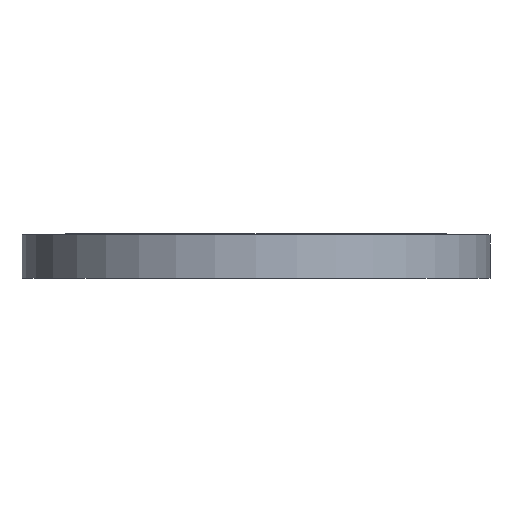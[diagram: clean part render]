
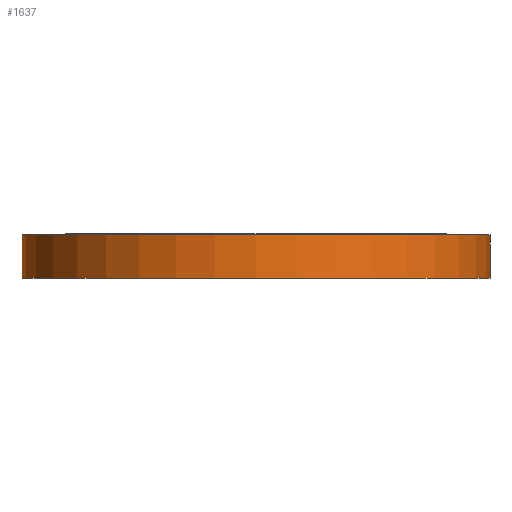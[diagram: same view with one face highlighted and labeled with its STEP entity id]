
A CAD part, front view. The second image highlights one B-rep face of the part: STEP entity #1637.
In plain terms, the highlighted cylindrical face has radius 377.5 mm (diameter 755 mm), a partial arc.
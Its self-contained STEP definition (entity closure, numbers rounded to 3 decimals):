
#1 = CARTESIAN_POINT ( 'NONE',  ( 377.5, 0., -150. ) ) ;
#48 = CARTESIAN_POINT ( 'NONE',  ( -377.5, 0., -2. ) ) ;
#109 = EDGE_CURVE ( 'NONE', #360, #556, #280, .T. ) ;
#146 = CARTESIAN_POINT ( 'NONE',  ( -377.5, 0., -72. ) ) ;
#232 = VECTOR ( 'NONE', #277, 1000. ) ;
#256 = DIRECTION ( 'NONE',  ( 0., 0., -1. ) ) ;
#277 = DIRECTION ( 'NONE',  ( 0., 0., 1. ) ) ;
#278 = CARTESIAN_POINT ( 'NONE',  ( -377.5, 0., -150. ) ) ;
#280 = LINE ( 'NONE', #278, #232 ) ;
#360 = VERTEX_POINT ( 'NONE', #146 ) ;
#395 = EDGE_LOOP ( 'NONE', ( #1338, #1341, #1342, #1347 ) ) ;
#422 = DIRECTION ( 'NONE',  ( -1., 0., 0. ) ) ;
#556 = VERTEX_POINT ( 'NONE', #48 ) ;
#615 = CIRCLE ( 'NONE', #1521, 377.5 ) ;
#739 = VERTEX_POINT ( 'NONE', #1168 ) ;
#891 = EDGE_CURVE ( 'NONE', #1396, #556, #1742, .T. ) ;
#893 = DIRECTION ( 'NONE',  ( 0., 0., 1. ) ) ;
#914 = DIRECTION ( 'NONE',  ( 0., 0., 1. ) ) ;
#1058 = FACE_OUTER_BOUND ( 'NONE', #395, .T. ) ;
#1076 = DIRECTION ( 'NONE',  ( -1., 0., 0. ) ) ;
#1150 = EDGE_CURVE ( 'NONE', #739, #360, #615, .T. ) ;
#1168 = CARTESIAN_POINT ( 'NONE',  ( 377.5, 0., -72. ) ) ;
#1246 = AXIS2_PLACEMENT_3D ( 'NONE', #1927, #893, #1490 ) ;
#1335 = CARTESIAN_POINT ( 'NONE',  ( 0., 0., -72. ) ) ;
#1338 = ORIENTED_EDGE ( 'NONE', *, *, #109, .F. ) ;
#1341 = ORIENTED_EDGE ( 'NONE', *, *, #1150, .F. ) ;
#1342 = ORIENTED_EDGE ( 'NONE', *, *, #1898, .T. ) ;
#1347 = ORIENTED_EDGE ( 'NONE', *, *, #891, .T. ) ;
#1396 = VERTEX_POINT ( 'NONE', #1887 ) ;
#1490 = DIRECTION ( 'NONE',  ( 1., 0., 0. ) ) ;
#1503 = VECTOR ( 'NONE', #914, 1000. ) ;
#1521 = AXIS2_PLACEMENT_3D ( 'NONE', #1335, #1769, #422 ) ;
#1608 = CYLINDRICAL_SURFACE ( 'NONE', #1246, 377.5 ) ;
#1621 = LINE ( 'NONE', #1, #1503 ) ;
#1637 = ADVANCED_FACE ( 'NONE', ( #1058 ), #1608, .T. ) ;
#1711 = CARTESIAN_POINT ( 'NONE',  ( 0., 0., -2. ) ) ;
#1729 = AXIS2_PLACEMENT_3D ( 'NONE', #1711, #256, #1076 ) ;
#1742 = CIRCLE ( 'NONE', #1729, 377.5 ) ;
#1769 = DIRECTION ( 'NONE',  ( 0., 0., -1. ) ) ;
#1887 = CARTESIAN_POINT ( 'NONE',  ( 377.5, 0., -2. ) ) ;
#1898 = EDGE_CURVE ( 'NONE', #739, #1396, #1621, .T. ) ;
#1927 = CARTESIAN_POINT ( 'NONE',  ( 0., 0., -150. ) ) ;
